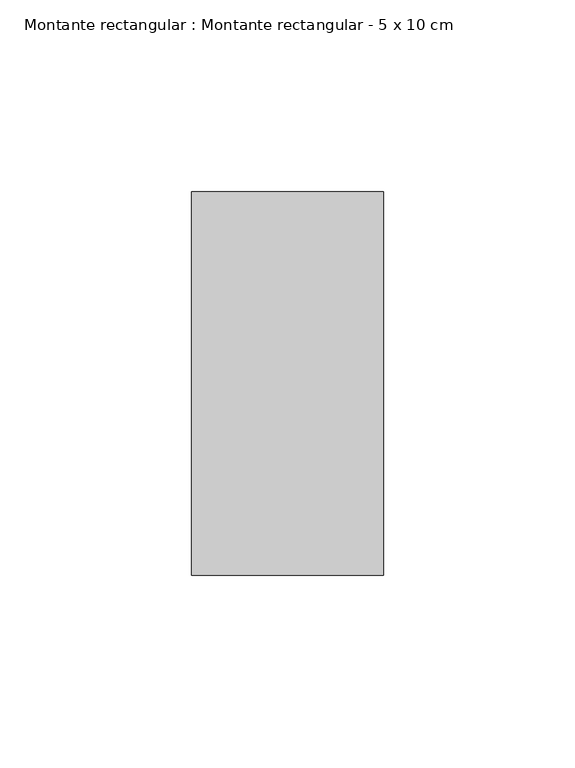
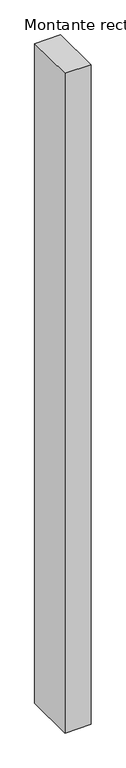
"""IFC4 building model written with IfcOpenShell, lengths in millimetres: member geometry, Montante rectangular : Montante rectangular - 5 x 10 cm."""

import ifcopenshell
import ifcopenshell.guid

model = None  # the IFC model being written
_history = None  # IfcOwnerHistory: only IFC2X3 demands one
_inside = {}  # id of a spatial element -> (the spatial element, [elements in it])
_under = {}  # id of a project, library or spatial element -> (it, [spatial elements below it])
_declared = {}  # id of a project -> (the project, [libraries it declares])
_typed = {}  # id of a type object -> (the type object, [elements of that type])
_made_of = {}  # id of a material, layer set ... -> (it, [elements and type objects made of it])


def new_model(schema):
    """Start an empty IFC model of exactly this schema.

    Asked for "IFC4X3", IfcOpenShell would pick the latest addendum, in which some entities
    have other attributes; the version numbers below select the first issue.
    IFC2X3 requires an IfcOwnerHistory on every rooted entity: one is made here for all.
    """
    global model, _history
    if schema == "IFC4X3":
        model = ifcopenshell.file(schema_version=(4, 3, 0, 0))
    else:
        model = ifcopenshell.file(schema=schema)
    _inside.clear()
    _under.clear()
    _declared.clear()
    _typed.clear()
    _made_of.clear()
    _history = None
    if model.schema == "IFC2X3":
        org = make("IfcOrganization", Name="unknown")
        user = make(
            "IfcPersonAndOrganization",
            ThePerson=make("IfcPerson", FamilyName="unknown"),
            TheOrganization=org,
        )
        app = make(
            "IfcApplication",
            ApplicationDeveloper=org,
            Version="unknown",
            ApplicationFullName="unknown",
            ApplicationIdentifier="unknown",
        )
        _history = make(
            "IfcOwnerHistory",
            OwningUser=user,
            OwningApplication=app,
            ChangeAction="ADDED",
            CreationDate=0,
        )
    return model


def make(cls, **values):
    """One entity of the class cls with the attributes given. An attribute that is None is left unset."""
    return model.create_entity(
        cls, **{name: value for name, value in values.items() if value is not None}
    )


def rooted(cls, **values):
    """An entity with a GlobalId (a new one), such as an element, a storey or a relation."""
    return make(cls, GlobalId=ifcopenshell.guid.new(), OwnerHistory=_history, **values)


def si_unit(unit_type, name, prefix=None):
    """IfcSIUnit, for example si_unit("LENGTHUNIT", "METRE", prefix="MILLI")."""
    return make("IfcSIUnit", UnitType=unit_type, Prefix=prefix, Name=name)


def assignment(units):
    """IfcUnitAssignment: the units of a project."""
    return None if units is None else make("IfcUnitAssignment", Units=units)


def point(xyz):
    """IfcCartesianPoint."""
    return None if xyz is None else make("IfcCartesianPoint", Coordinates=xyz)


def direction(xyz):
    """IfcDirection."""
    return None if xyz is None else make("IfcDirection", DirectionRatios=xyz)


def frame(location, z_axis=None, x_axis=None):
    """IfcAxis2Placement3D, a coordinate frame: its origin and axes. An axis left out is left unset."""
    return make(
        "IfcAxis2Placement3D",
        Location=point(location),
        Axis=direction(z_axis),
        RefDirection=direction(x_axis),
    )


def origin():
    """The frame at (0, 0, 0) with its axes left unset."""
    return frame((0.0, 0.0, 0.0))


def place(relative_to, where):
    """IfcLocalPlacement: puts the frame where relative to a parent placement (None: the world)."""
    return make(
        "IfcLocalPlacement", PlacementRelTo=relative_to, RelativePlacement=where
    )


def context(
    kind, dimensions, precision=None, world=None, true_north=None, identifier=None
):
    """IfcGeometricRepresentationContext, for example the 3D "Model" context."""
    return make(
        "IfcGeometricRepresentationContext",
        ContextIdentifier=identifier,
        ContextType=kind,
        CoordinateSpaceDimension=dimensions,
        Precision=precision,
        WorldCoordinateSystem=world,
        TrueNorth=true_north,
    )


def project(units=None, contexts=None):
    """IfcProject with its units and contexts."""
    return rooted(
        "IfcProject",
        Name="project",
        RepresentationContexts=contexts,
        UnitsInContext=assignment(units),
    )


def spatial(cls, under=None, at=None, **own):
    """A site, building, storey or space (cls), placed at a placement, below another one or the project."""
    s = rooted(cls, ObjectPlacement=at, **own)
    if under is not None:
        _under.setdefault(under.id(), (under, []))[1].append(s)
    return s


def polyline(points):
    """IfcPolyline through the points."""
    return make("IfcPolyline", Points=[point(p) for p in points])


def outline(outer, holes=None, kind="AREA"):
    """IfcArbitraryClosedProfileDef: a profile drawn as a closed curve; with holes, ...WithVoids."""
    if holes is None:
        return make("IfcArbitraryClosedProfileDef", ProfileType=kind, OuterCurve=outer)
    return make(
        "IfcArbitraryProfileDefWithVoids",
        ProfileType=kind,
        OuterCurve=outer,
        InnerCurves=holes,
    )


def extrude(swept, where, along, depth):
    """IfcExtrudedAreaSolid: the profile swept, set in the frame where, extruded along a direction by depth."""
    return make(
        "IfcExtrudedAreaSolid",
        SweptArea=swept,
        Position=where,
        ExtrudedDirection=direction(along),
        Depth=depth,
    )


def shape(context_of_items, identifier, shape_type, items):
    """IfcShapeRepresentation: the items that make up one representation, for example the "Body"."""
    return make(
        "IfcShapeRepresentation",
        ContextOfItems=context_of_items,
        RepresentationIdentifier=identifier,
        RepresentationType=shape_type,
        Items=items,
    )


def source(mapping_origin, context_of_items, identifier, shape_type, items):
    """IfcRepresentationMap: a shape defined once, which mapped items show again and again."""
    return make(
        "IfcRepresentationMap",
        MappingOrigin=mapping_origin,
        MappedRepresentation=shape(context_of_items, identifier, shape_type, items),
    )


def transform(
    local_origin,
    x_axis=None,
    y_axis=None,
    z_axis=None,
    scale=None,
    scale2=None,
    scale3=None,
    uniform=True,
):
    """IfcCartesianTransformationOperator3D, or its non-uniform kind. x_axis, y_axis, z_axis: its Axis1, 2, 3."""
    if uniform:
        return make(
            "IfcCartesianTransformationOperator3D",
            Axis1=direction(x_axis),
            Axis2=direction(y_axis),
            LocalOrigin=point(local_origin),
            Scale=scale,
            Axis3=direction(z_axis),
        )
    return make(
        "IfcCartesianTransformationOperator3DnonUniform",
        Axis1=direction(x_axis),
        Axis2=direction(y_axis),
        LocalOrigin=point(local_origin),
        Scale=scale,
        Axis3=direction(z_axis),
        Scale2=scale2,
        Scale3=scale3,
    )


def mapped(mapping_source, mapping_target):
    """IfcMappedItem: shows the shape of a source again, moved by a transform."""
    return make(
        "IfcMappedItem", MappingSource=mapping_source, MappingTarget=mapping_target
    )


def made_of(thing, what):
    """Note that an element or type object is made of a material, layer set ...; save() writes the relation."""
    if what is not None:
        _made_of.setdefault(what.id(), (what, []))[1].append(thing)
    return thing


def element(
    cls,
    number,
    at=None,
    inside=None,
    cuts=None,
    type_object=None,
    material=None,
    context=None,
    identifier="Body",
    shape_type=None,
    held_by="IfcProductDefinitionShape",
    body=None,
    shapes=None,
    **own,
):
    """One element of the class cls, such as IfcWall. Its Tag is "e" and its number.

    at: its placement. inside: the storey or other place that contains it. cuts: it is an
    opening in that element (IfcRelVoidsElement). A single representation is given by context,
    identifier, shape_type and body (its items); several are given by shapes. held_by: the class
    of the entity that holds the representations. save() writes the other relations.
    """
    e = rooted(cls, Tag="e%d" % number, ObjectPlacement=at, **own)
    if body is not None:
        shapes = [shape(context, identifier, shape_type, body)]
    if shapes is not None:
        e.Representation = make(held_by, Representations=shapes)
    if inside is not None:
        _inside.setdefault(inside.id(), (inside, []))[1].append(e)
    if cuts is not None:
        rooted(
            "IfcRelVoidsElement", RelatingBuildingElement=cuts, RelatedOpeningElement=e
        )
    if type_object is not None:
        _typed.setdefault(type_object.id(), (type_object, []))[1].append(e)
    return made_of(e, material)


def aggregate(whole, parts):
    """IfcRelAggregates: a whole, such as a stair, and the parts it consists of."""
    return rooted("IfcRelAggregates", RelatingObject=whole, RelatedObjects=parts)


def save(model, path):
    """Write the relations noted so far, then the file.

    IfcRelAggregates (storeys below a building ...), IfcRelContainedInSpatialStructure (elements
    in a storey), IfcRelDefinesByType, IfcRelAssociatesMaterial and IfcRelDeclares: one each for
    every whole, place, type object, material and project.
    """
    for whole, parts in _under.values():
        aggregate(whole, parts)
    for where, things in _inside.values():
        rooted(
            "IfcRelContainedInSpatialStructure",
            RelatedElements=things,
            RelatingStructure=where,
        )
    for kind, things in _typed.values():
        rooted("IfcRelDefinesByType", RelatedObjects=things, RelatingType=kind)
    for what, things in _made_of.values():
        rooted("IfcRelAssociatesMaterial", RelatedObjects=things, RelatingMaterial=what)
    for by, libraries in _declared.values():
        rooted("IfcRelDeclares", RelatingContext=by, RelatedDefinitions=libraries)
    model.write(path)


def montante_rectangular_montante_rectangular_5_x_10_cm_18d2668c(model_context):
    return source(origin(), model_context, "Body", "SweptSolid", [
        extrude(outline(polyline([(-50.0, 50.0), (0.0, 50.0), (0.0, -50.0), (-50.0, -50.0), (-50.0, 50.0)])), frame((0.0, 0.0, -1336.7370587), z_axis=(0.0, 0.0, 1.0), x_axis=(1.0, 0.0, 0.0)), (0.0, 0.0, 1.0), 1336.7370587),
    ])


if __name__ == "__main__":
    model = new_model("IFC4")
    model_context = context("Model", 3, world=origin())
    ifc_project = project(units=[si_unit("LENGTHUNIT", "METRE", prefix="MILLI")], contexts=[model_context])
    site = spatial("IfcSite", under=ifc_project)
    building = spatial("IfcBuilding", under=site)
    placement = place(None, origin())
    montante_rectangular_montante_rectangular_5_x_10_cm_shape = montante_rectangular_montante_rectangular_5_x_10_cm_18d2668c(model_context)
    element("IfcMember", 1, ObjectType="Montante rectangular : Montante rectangular - 5 x 10 cm", at=placement, inside=building, context=model_context, shape_type="MappedRepresentation", body=[
        mapped(montante_rectangular_montante_rectangular_5_x_10_cm_shape, transform((0.0, 0.0, 0.0), x_axis=(1.0, 0.0, 0.0), y_axis=(0.0, 1.0, 0.0), z_axis=(0.0, 0.0, 1.0))),
    ])
    save(model, "model.ifc")
